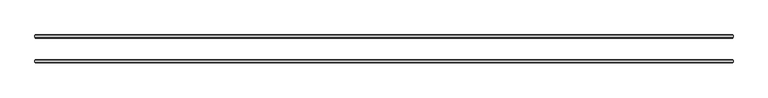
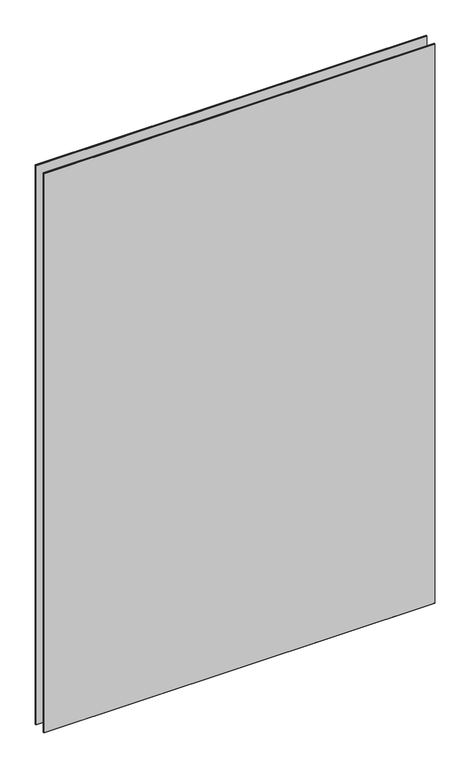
"""IFC4 building model written with IfcOpenShell, lengths in millimetres: plate geometry, 3-AMG-2-Панель двойной витраж 8, 10 : Смещение 32 Толщина 8mm."""

from ifc_helpers import new_model, si_unit, origin, place, context, project, spatial, faceted_brep, source, transform, mapped, element, save


def plate_865ba4a2(model_context):
    return source(origin(), model_context, "Body", "Brep", [
        faceted_brep([(904.3814005, -34.4961653, 2722.8), (904.3814005, -29.5038347, 2722.8), (-899.3814005, -29.5038347, 2722.8), (-899.3814005, -34.4961653, 2722.8), (904.3814005, -29.5038347, -7.0), (904.3814005, -34.4961653, -7.0), (-899.3814005, -34.4961653, -7.0), (-899.3814005, -29.5038347, -7.0), (-897.8775658, -28.0, 2721.2961653), (902.8775658, -28.0, 2721.2961653), (902.8775658, -28.0, -5.5039422), (-897.8775658, -28.0, -5.5039422), (902.8775658, -36.0, 2721.2961653), (-897.8775658, -36.0, 2721.2961653), (-897.8775658, -36.0, -5.4961653), (902.8775658, -36.0, -5.4961653)], [[[0, 1, 2, 3]], [[4, 5, 6, 7]], [[8, 9, 10, 11]], [[3, 2, 7, 6]], [[12, 13, 14, 15]], [[1, 0, 5, 4]], [[1, 4, 10, 9]], [[5, 0, 12, 15]], [[0, 3, 13, 12]], [[2, 1, 9, 8]], [[7, 2, 8, 11]], [[3, 6, 14, 13]], [[6, 5, 15, 14]], [[4, 7, 11, 10]]]),
        faceted_brep([(904.3814005, 29.5038347, 2722.8), (904.3814005, 34.4961653, 2722.8), (-899.3814005, 34.4961653, 2722.8), (-899.3814005, 29.5038347, 2722.8), (904.3814005, 34.4961653, -7.0), (904.3814005, 29.5038347, -7.0), (-899.3814005, 29.5038347, -7.0), (-899.3814005, 34.4961653, -7.0), (-897.8775658, 36.0, 2721.2961653), (902.8775658, 36.0, 2721.2961653), (902.8775658, 36.0, -5.5039422), (-897.8775658, 36.0, -5.5039422), (902.8775658, 28.0, 2721.2961653), (-897.8775658, 28.0, 2721.2961653), (-897.8775658, 28.0, -5.4961653), (902.8775658, 28.0, -5.4961653)], [[[0, 1, 2, 3]], [[4, 5, 6, 7]], [[8, 9, 10, 11]], [[3, 2, 7, 6]], [[12, 13, 14, 15]], [[1, 0, 5, 4]], [[1, 4, 10, 9]], [[5, 0, 12, 15]], [[7, 2, 8, 11]], [[3, 6, 14, 13]], [[0, 3, 13, 12]], [[2, 1, 9, 8]], [[6, 5, 15, 14]], [[4, 7, 11, 10]]]),
    ])


if __name__ == "__main__":
    model = new_model("IFC4")
    model_context = context("Model", 3, world=origin())
    ifc_project = project(units=[si_unit("LENGTHUNIT", "METRE", prefix="MILLI")], contexts=[model_context])
    site = spatial("IfcSite", under=ifc_project)
    building = spatial("IfcBuilding", under=site)
    placement = place(None, origin())
    plate_shape = plate_865ba4a2(model_context)
    element("IfcPlate", 1, ObjectType="3-AMG-2-Панель двойной витраж 8, 10 : Смещение 32 Толщина 8mm", at=placement, inside=building, context=model_context, shape_type="MappedRepresentation", body=[
        mapped(plate_shape, transform((0.0, 0.0, 0.0), x_axis=(1.0, 0.0, 0.0), y_axis=(0.0, 1.0, 0.0), z_axis=(0.0, 0.0, 1.0))),
    ])
    save(model, "model.ifc")
